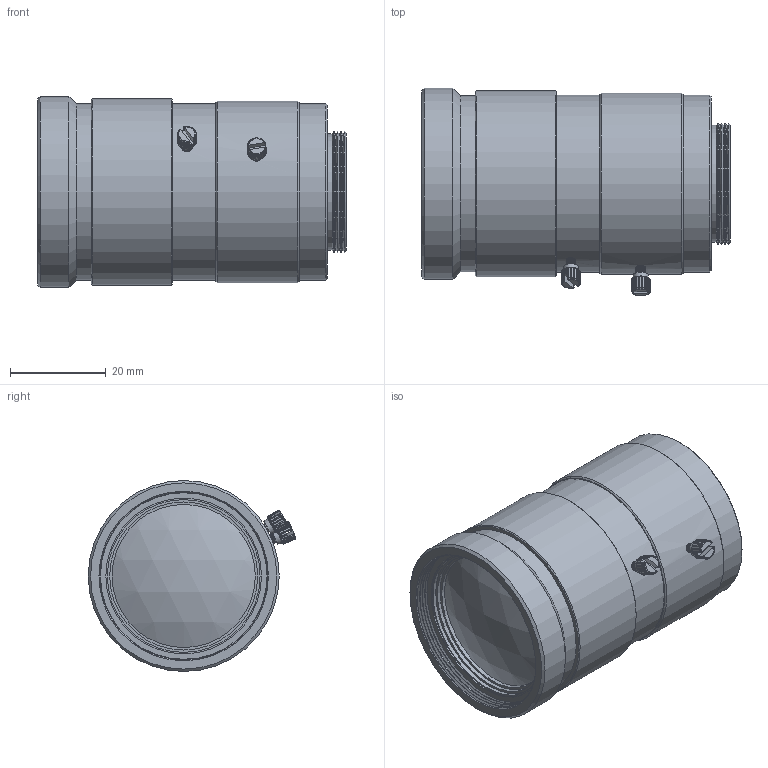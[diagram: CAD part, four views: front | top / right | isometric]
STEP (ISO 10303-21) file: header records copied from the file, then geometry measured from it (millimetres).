
FILE_DESCRIPTION(/* description */ ('TCL 7528 5MP'),/* implementation_level */ '2;1');
FILE_NAME(/* name */ 'D:\1_Konstruktion\1_KUNDEN\TIS\199-15_Objektive_Step-Dateien für Endkundem\C-Objektive (8x)\Lens_TCL 7528 5MP.stp',/* time_stamp */ '2016-01-28T20:00:38+01:00',/* author */ ('khw'),/* organization */ (''),/* preprocessor_version */ 'ST-DEVELOPER v15.2',/* originating_system */ 'Autodesk Inventor 2014',/* authorisation */ '6767,5 mm^3');
FILE_SCHEMA (('AUTOMOTIVE_DESIGN { 1 0 10303 214 3 1 1 }'));
Length unit declared in the file: millimetre
Products named in the file (1): Lens_TCL 7528 5MP
Bounding box: 64.66 x 43.48 x 40 mm (x, y, z)
Volume: 46742 mm3; surface area: 27070.3 mm2
Topology: 2 solids, 3 shells, 728 faces, 2309 edges, 1259 vertices
Faces by surface type: bspline 306, cylinder 219, plane 138, cone 59, torus 4, sphere 2
Full cylindrical faces by diameter (mm): 2 x30, 3.1 x2, 16.92 x1, 19 x1, 20.5 x1, 21 x1, 21.08 x1, 21.48 x1, 21.6 x1, 22 x2, 22.5 x1, 23 x1, 24.44 x1, 25.4 x4, 28.6 x1, 28.9 x1, 29.94 x1, 30 x1, 30.4 x1, 30.64 x1, 31 x17, 31.4 x1, 31.5 x1, 31.86 x1, 32 x1, 32.6 x1, 33.5 x2, 34.56 x1, 34.6 x1, 34.64 x1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
Entity records: 63206 total; most frequent: CARTESIAN_POINT 46073, ORIENTED_EDGE 3968, DIRECTION 2860, EDGE_CURVE 1984, AXIS2_PLACEMENT_3D 1262, VERTEX_POINT 1206, CIRCLE 861, EDGE_LOOP 832
